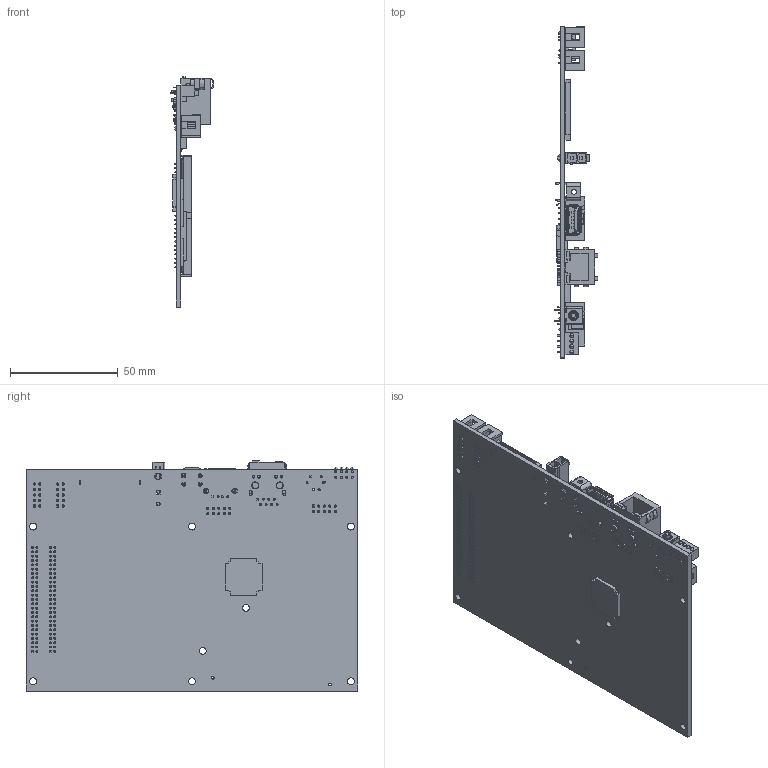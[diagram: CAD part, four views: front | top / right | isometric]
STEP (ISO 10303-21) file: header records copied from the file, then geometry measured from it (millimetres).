
FILE_DESCRIPTION((''),'2;1');
FILE_NAME('CU_SBRIO-9633_36','2012-02-15T',('jpfaff'),(''),'PRO/ENGINEER BY PARAMETRIC TECHNOLOGY CORPORATION, 2010230','PRO/ENGINEER BY PARAMETRIC TECHNOLOGY CORPORATION, 2010230','');
FILE_SCHEMA(('CONFIG_CONTROL_DESIGN'));
Products named in the file (1): CU_SBRIO-9633_36
Bounding box: 20.24 x 153.67 x 106.61 mm (x, y, z)
Volume: 46928.6 mm3; surface area: 51534.1 mm2
Topology: 7 solids, 7 shells, 5209 faces, 13284 edges, 8218 vertices
Faces by surface type: plane 4393, cylinder 720, bspline 52, sphere 42, cone 2
Entity records: 156444 total; most frequent: CARTESIAN_POINT 29747, ORIENTED_EDGE 26484, DIRECTION 24812, EDGE_CURVE 13242, VECTOR 11502, LINE 11502, VERTEX_POINT 8218, AXIS2_PLACEMENT_3D 6655
